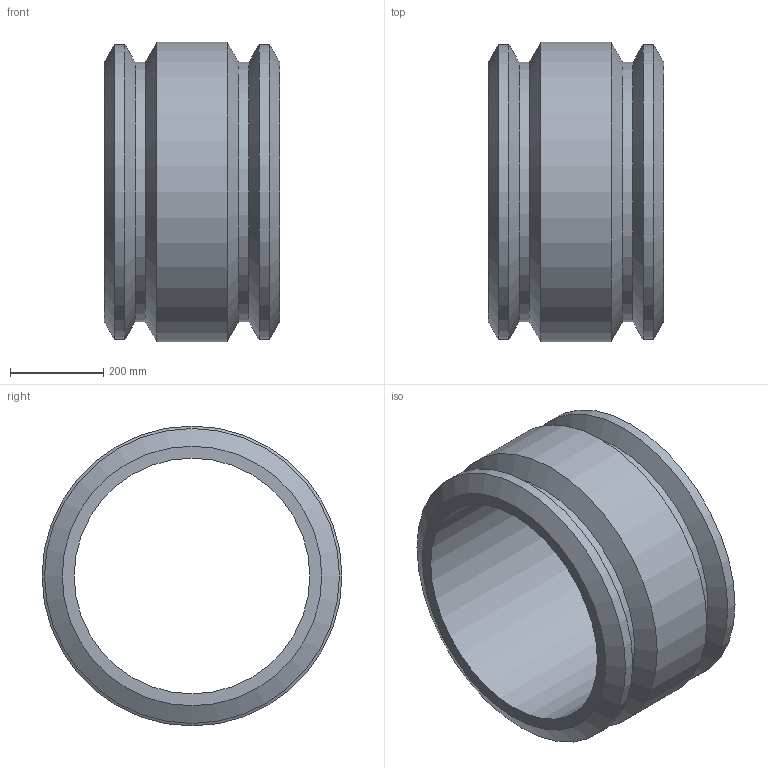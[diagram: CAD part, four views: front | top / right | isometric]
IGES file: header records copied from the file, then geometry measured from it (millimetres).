
Global section: file name: 5901D003200.ipt; native system: Autodesk Inventor 2019; preprocessor: unknown; author: KIM; date: 20210830.100919; units: inch
Bounding box: 375.92 x 643.38 x 643.38 mm (x, y, z)
Volume: 36486397.8 mm3; surface area: 1667170.7 mm2
Topology: 1 solids, 1 shells, 14 faces, 28 edges, 16 vertices
Faces by surface type: cone 6, cylinder 5, plane 2, revolution 1
Full cylindrical faces by diameter (mm): 557.012 x2, 632.968 x2, 643.382 x1
